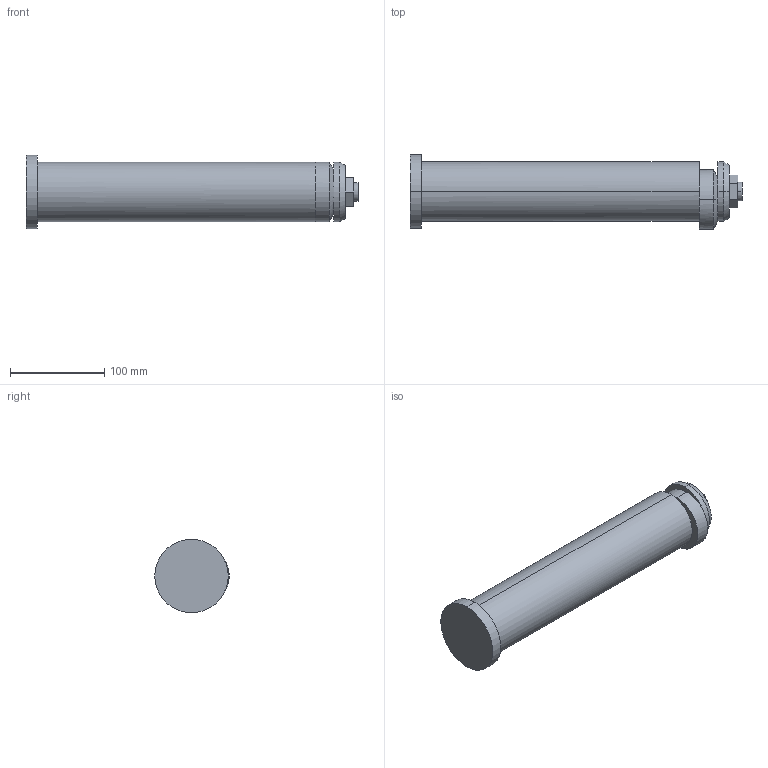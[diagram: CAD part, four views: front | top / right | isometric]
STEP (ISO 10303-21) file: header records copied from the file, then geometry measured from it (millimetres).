
FILE_DESCRIPTION(('CATIA V5 STEP Exchange'),'2;1');
FILE_NAME('C:\Users\Raffaele\Desktop\3D X SITO CF\PERNI -STAFFE SOLLEVAMENTO\395PSF\GSB_OILLESS_C10302063295\STEP-2.03\395PSF-5.stp','2019-07-03T09:27:09+00:00',('none'),('none'),'CATIA Version 5 Release 20 GA (IN-10)','CATIA V5 STEP AP203','none');
FILE_SCHEMA(('CONFIG_CONTROL_DESIGN'));
Length unit declared in the file: millimetre
Products named in the file (1): 395PSF-5
Bounding box: 352.5 x 79 x 78 mm (x, y, z)
Volume: 1057067.9 mm3; surface area: 87312.7 mm2
Topology: 1 solids, 2 shells, 34 faces, 100 edges, 74 vertices
Faces by surface type: plane 16, cylinder 14, cone 4
Entity records: 1370 total; most frequent: CARTESIAN_POINT 429, ORIENTED_EDGE 200, DIRECTION 151, EDGE_CURVE 100, AXIS2_PLACEMENT_3D 82, VERTEX_POINT 74, CIRCLE 47, EDGE_LOOP 40
